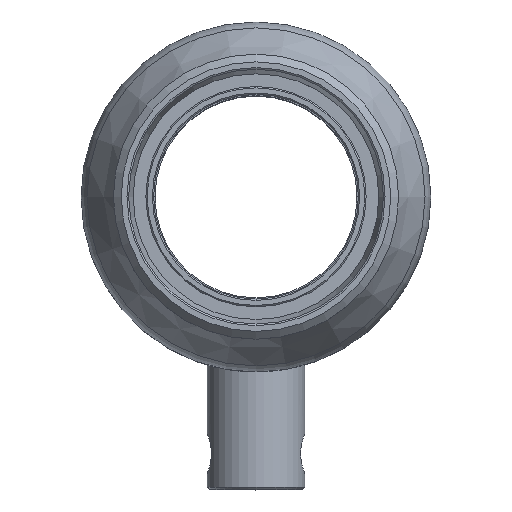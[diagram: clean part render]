
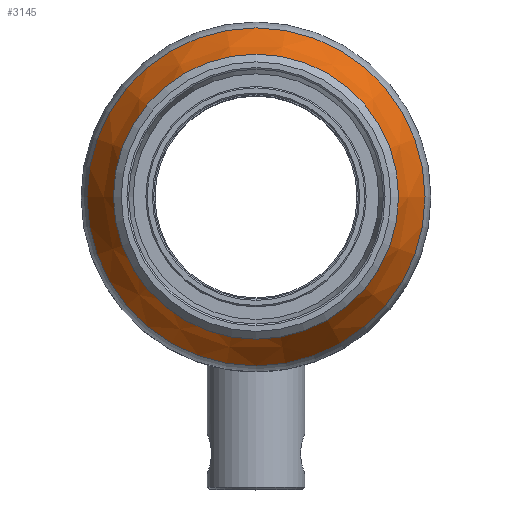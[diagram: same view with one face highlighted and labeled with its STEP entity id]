
A CAD part, top view. The second image highlights one B-rep face of the part: STEP entity #3145.
In plain terms, the highlighted conical face has half-angle 27.702 degrees and reference radius 52.5 mm.
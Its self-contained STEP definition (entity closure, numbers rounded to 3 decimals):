
#102=CONICAL_SURFACE('',#3375,52.5,0.483);
#337=ORIENTED_EDGE('',*,*,#718,.T.);
#338=ORIENTED_EDGE('',*,*,#717,.F.);
#717=EDGE_CURVE('',#920,#920,#1100,.T.);
#718=EDGE_CURVE('',#921,#921,#1101,.T.);
#920=VERTEX_POINT('',#4608);
#921=VERTEX_POINT('',#4611);
#1100=CIRCLE('',#3374,52.5);
#1101=CIRCLE('',#3376,65.208);
#1301=EDGE_LOOP('',(#337));
#1302=EDGE_LOOP('',(#338));
#1625=FACE_BOUND('',#1301,.T.);
#1626=FACE_BOUND('',#1302,.T.);
#3145=ADVANCED_FACE('',(#1625,#1626),#102,.T.);
#3374=AXIS2_PLACEMENT_3D('',#4607,#3824,#3825);
#3375=AXIS2_PLACEMENT_3D('',#4609,#3826,#3827);
#3376=AXIS2_PLACEMENT_3D('',#4610,#3828,#3829);
#3824=DIRECTION('',(0.,0.,1.));
#3825=DIRECTION('',(1.,0.,0.));
#3826=DIRECTION('',(0.,0.,-1.));
#3827=DIRECTION('',(-1.,0.,0.));
#3828=DIRECTION('',(0.,0.,1.));
#3829=DIRECTION('',(1.,0.,0.));
#4607=CARTESIAN_POINT('',(0.,0.,108.5));
#4608=CARTESIAN_POINT('',(52.5,0.,108.5));
#4609=CARTESIAN_POINT('',(0.,0.,108.5));
#4610=CARTESIAN_POINT('',(0.,0.,84.297));
#4611=CARTESIAN_POINT('',(65.208,0.,84.297));
